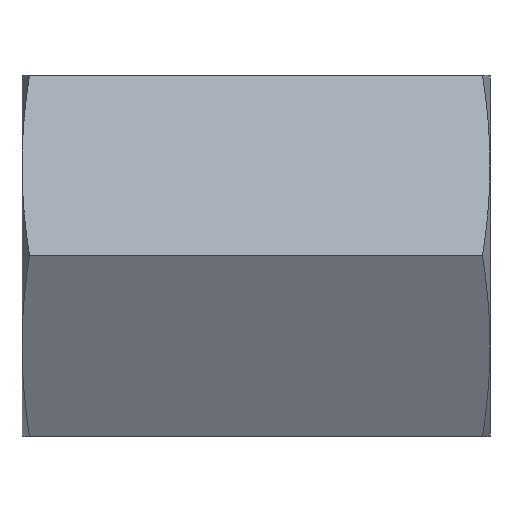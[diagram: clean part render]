
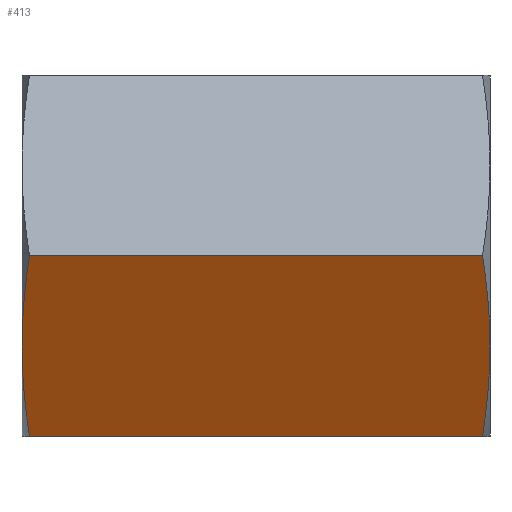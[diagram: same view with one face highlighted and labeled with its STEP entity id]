
A CAD part, top view. The second image highlights one B-rep face of the part: STEP entity #413.
In plain terms, the highlighted planar face has unit normal (0, -0.5, 0.866).
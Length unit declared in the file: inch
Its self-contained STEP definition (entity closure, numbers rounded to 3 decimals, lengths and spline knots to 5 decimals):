
#413 = ADVANCED_FACE( '', ( #977 ), #978, .F. );
#977 = FACE_OUTER_BOUND( '', #4930, .T. );
#978 = PLANE( '', #4931 );
#4930 = EDGE_LOOP( '', ( #13731, #13732, #13733, #13734, #13735, #13736 ) );
#4931 = AXIS2_PLACEMENT_3D( '', #13737, #13738, #13739 );
#13731 = ORIENTED_EDGE( '', *, *, #15502, .F. );
#13732 = ORIENTED_EDGE( '', *, *, #15503, .T. );
#13733 = ORIENTED_EDGE( '', *, *, #15504, .F. );
#13734 = ORIENTED_EDGE( '', *, *, #15440, .F. );
#13735 = ORIENTED_EDGE( '', *, *, #15158, .F. );
#13736 = ORIENTED_EDGE( '', *, *, #15505, .F. );
#13737 = CARTESIAN_POINT( '', ( 7.13, 0., 3.17543 ) );
#13738 = DIRECTION( '', ( 0., 0.5, -0.866 ) );
#13739 = DIRECTION( '', ( 0., 0.866, 0.5 ) );
#15158 = EDGE_CURVE( '', #16090, #16093, #16094, .T. );
#15440 = EDGE_CURVE( '', #16093, #16531, #16532, .T. );
#15502 = EDGE_CURVE( '', #16612, #16402, #16613, .T. );
#15503 = EDGE_CURVE( '', #16612, #16614, #16615, .T. );
#15504 = EDGE_CURVE( '', #16531, #16614, #16616, .T. );
#15505 = EDGE_CURVE( '', #16402, #16090, #16617, .T. );
#16090 = VERTEX_POINT( '', #17658 );
#16093 = VERTEX_POINT( '', #17666 );
#16094 = LINE( '', #17667, #17668 );
#16402 = VERTEX_POINT( '', #19840 );
#16531 = VERTEX_POINT( '', #20553 );
#16532 = B_SPLINE_CURVE_WITH_KNOTS( '', 3, ( #20554, #20555, #20556, #20557, #20558, #20559 ), .UNSPECIFIED., .F., .F., ( 4, 2, 4 ), ( 0., 0.02016, 0.04033 ), .UNSPECIFIED. );
#16612 = VERTEX_POINT( '', #20746 );
#16613 = B_SPLINE_CURVE_WITH_KNOTS( '', 3, ( #20747, #20748, #20749, #20750, #20751, #20752 ), .UNSPECIFIED., .F., .F., ( 4, 2, 4 ), ( 0., 0.02016, 0.04033 ), .UNSPECIFIED. );
#16614 = VERTEX_POINT( '', #20753 );
#16615 = LINE( '', #20754, #20755 );
#16616 = B_SPLINE_CURVE_WITH_KNOTS( '', 3, ( #20756, #20757, #20758, #20759, #20760, #20761 ), .UNSPECIFIED., .F., .F., ( 4, 2, 4 ), ( 0.04033, 0.06049, 0.08066 ), .UNSPECIFIED. );
#16617 = B_SPLINE_CURVE_WITH_KNOTS( '', 3, ( #20762, #20763, #20764, #20765, #20766, #20767 ), .UNSPECIFIED., .F., .F., ( 4, 2, 4 ), ( 0.04033, 0.06049, 0.08066 ), .UNSPECIFIED. );
#17658 = CARTESIAN_POINT( '', ( 7.01601, -2.75, 1.58771 ) );
#17666 = CARTESIAN_POINT( '', ( 0.11399, -2.75, 1.58771 ) );
#17667 = CARTESIAN_POINT( '', ( 7.13, -2.75, 1.58771 ) );
#17668 = VECTOR( '', #24483, 39.37008 );
#19840 = CARTESIAN_POINT( '', ( 7.13, -1.375, 2.38157 ) );
#20553 = CARTESIAN_POINT( '', ( 0., -1.375, 2.38157 ) );
#20554 = CARTESIAN_POINT( '', ( 0.11399, -2.75, 1.58771 ) );
#20555 = CARTESIAN_POINT( '', ( 0.07854, -2.52083, 1.72002 ) );
#20556 = CARTESIAN_POINT( '', ( 0.04975, -2.29167, 1.85233 ) );
#20557 = CARTESIAN_POINT( '', ( 0.01042, -1.83333, 2.11695 ) );
#20558 = CARTESIAN_POINT( '', ( 0., -1.60417, 2.24926 ) );
#20559 = CARTESIAN_POINT( '', ( 0., -1.375, 2.38157 ) );
#20746 = CARTESIAN_POINT( '', ( 7.01601, 0., 3.17543 ) );
#20747 = CARTESIAN_POINT( '', ( 7.01601, 0., 3.17543 ) );
#20748 = CARTESIAN_POINT( '', ( 7.05146, -0.22917, 3.04312 ) );
#20749 = CARTESIAN_POINT( '', ( 7.08025, -0.45833, 2.91081 ) );
#20750 = CARTESIAN_POINT( '', ( 7.11958, -0.91667, 2.64619 ) );
#20751 = CARTESIAN_POINT( '', ( 7.13, -1.14583, 2.51388 ) );
#20752 = CARTESIAN_POINT( '', ( 7.13, -1.375, 2.38157 ) );
#20753 = CARTESIAN_POINT( '', ( 0.11399, 0., 3.17543 ) );
#20754 = CARTESIAN_POINT( '', ( 7.13, 0., 3.17543 ) );
#20755 = VECTOR( '', #24731, 39.37008 );
#20756 = CARTESIAN_POINT( '', ( 0., -1.375, 2.38157 ) );
#20757 = CARTESIAN_POINT( '', ( 0., -1.14583, 2.51388 ) );
#20758 = CARTESIAN_POINT( '', ( 0.01042, -0.91667, 2.64619 ) );
#20759 = CARTESIAN_POINT( '', ( 0.04975, -0.45833, 2.91081 ) );
#20760 = CARTESIAN_POINT( '', ( 0.07854, -0.22917, 3.04312 ) );
#20761 = CARTESIAN_POINT( '', ( 0.11399, 0., 3.17543 ) );
#20762 = CARTESIAN_POINT( '', ( 7.13, -1.375, 2.38157 ) );
#20763 = CARTESIAN_POINT( '', ( 7.13, -1.60417, 2.24926 ) );
#20764 = CARTESIAN_POINT( '', ( 7.11958, -1.83333, 2.11695 ) );
#20765 = CARTESIAN_POINT( '', ( 7.08025, -2.29167, 1.85233 ) );
#20766 = CARTESIAN_POINT( '', ( 7.05146, -2.52083, 1.72002 ) );
#20767 = CARTESIAN_POINT( '', ( 7.01601, -2.75, 1.58771 ) );
#24483 = DIRECTION( '', ( -1., 0., 0. ) );
#24731 = DIRECTION( '', ( -1., 0., 0. ) );
